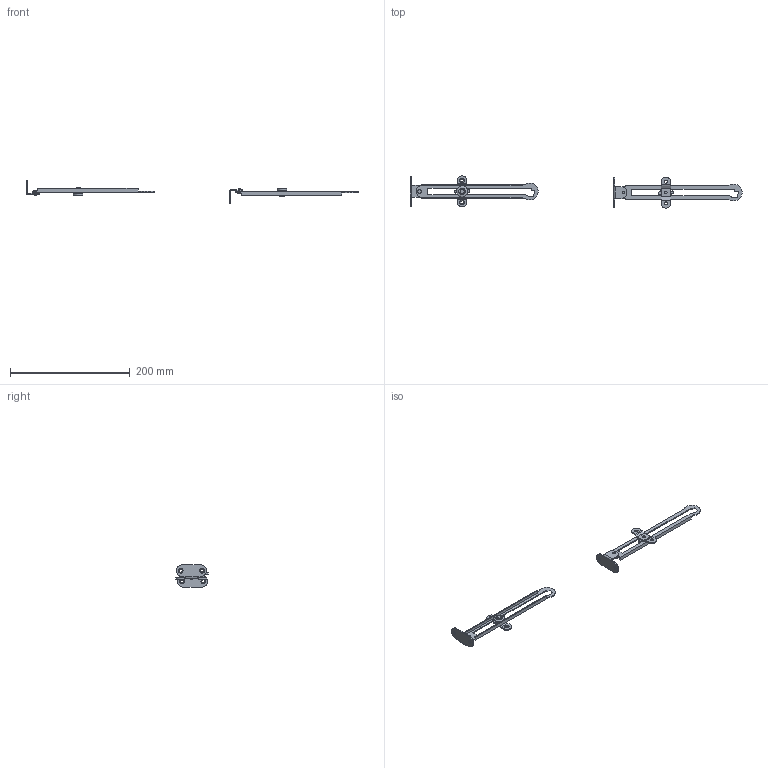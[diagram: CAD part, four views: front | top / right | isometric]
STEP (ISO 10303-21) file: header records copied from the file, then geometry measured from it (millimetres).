
FILE_DESCRIPTION(/* description */ (''),/* implementation_level */ '2;1');
FILE_NAME(/* name */ '\\Nas\db20\SY-5-2\DR_SY-5-2.stp',/* time_stamp */ '2017-09-20T16:36:32+09:00',/* author */ ('user'),/* organization */ (''),/* preprocessor_version */ 'ST-DEVELOPER v15.6',/* originating_system */ 'Autodesk Inventor 2015',/* authorisation */ '');
FILE_SCHEMA (('AUTOMOTIVE_DESIGN { 1 0 10303 214 3 1 1 }'));
Length unit declared in the file: millimetre
Products named in the file (11): DR_SY-5-2_BR_1_RIGHT; DR_SY-5-2_BR_2_RIGHT; DR_SY-5-2_PLATE_RIGHT; DR_SY-5-2_ROT_1_RIGHT; DR_SY-5-2_RIGHT; DR_SY-5-2_BR_1_LEFT; DR_SY-5-2_BR_2_LEFT; DR_SY-5-2_PLATE_LEFT; DR_SY-5-2_ROT_1_LEFT; DR_SY-5-2LEFT; DR_SY-5-2
Bounding box: 553.94 x 53.97 x 37.68 mm (x, y, z)
Volume: 23270.4 mm3; surface area: 32322.8 mm2
Topology: 10 solids, 10 shells, 210 faces, 524 edges, 352 vertices
Faces by surface type: plane 114, cylinder 86, cone 8, bspline 2
Full cylindrical faces by diameter (mm): 3 x12, 4 x4, 5 x8, 6 x2, 7 x2, 8 x2, 18 x2
Entity records: 6487 total; most frequent: DIRECTION 1112, CARTESIAN_POINT 1095, ORIENTED_EDGE 940, EDGE_CURVE 470, AXIS2_PLACEMENT_3D 415, VERTEX_POINT 338, EDGE_LOOP 296, LINE 282
